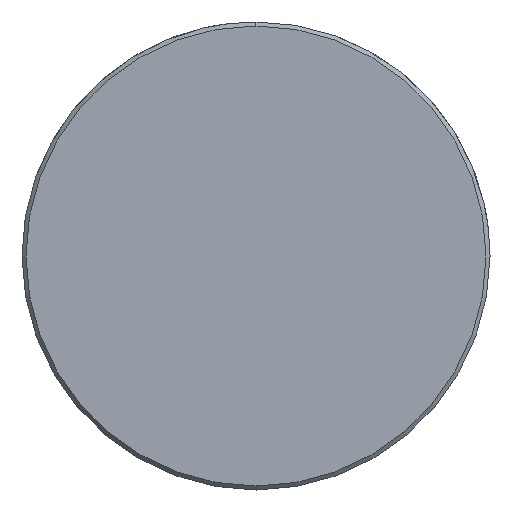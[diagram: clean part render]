
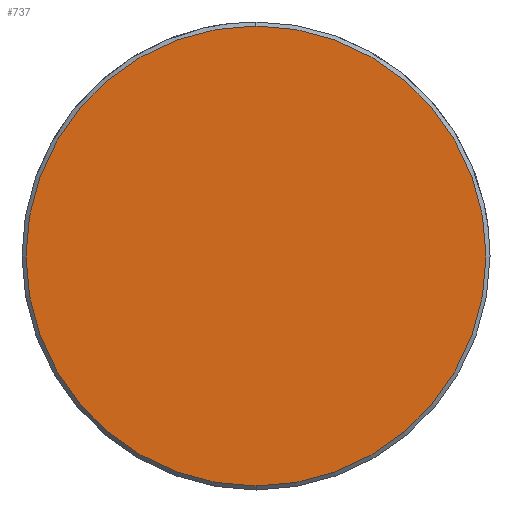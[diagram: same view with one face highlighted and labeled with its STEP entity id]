
A CAD part, left-side view. The second image highlights one B-rep face of the part: STEP entity #737.
In plain terms, the highlighted planar face has unit normal (-1, 0, 0).
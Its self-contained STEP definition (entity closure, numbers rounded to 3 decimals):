
#669=CARTESIAN_POINT('Vertex',(0.,0.,-17.2)) ;
#672=CARTESIAN_POINT('Axis2P3D Location',(0.,0.,0.)) ;
#676=CARTESIAN_POINT('Vertex',(0.,17.2,0.)) ;
#679=CARTESIAN_POINT('Axis2P3D Location',(0.,0.,0.)) ;
#683=CARTESIAN_POINT('Vertex',(0.,0.,17.2)) ;
#705=CARTESIAN_POINT('Axis2P3D Location',(0.,0.,0.)) ;
#709=CARTESIAN_POINT('Vertex',(0.,-17.2,0.)) ;
#712=CARTESIAN_POINT('Axis2P3D Location',(0.,0.,0.)) ;
#726=CARTESIAN_POINT('Axis2P3D Location',(0.,0.,0.)) ;
#673=DIRECTION('Axis2P3D Direction',(1.,0.,-0.)) ;
#680=DIRECTION('Axis2P3D Direction',(1.,0.,-0.)) ;
#706=DIRECTION('Axis2P3D Direction',(1.,0.,-0.)) ;
#713=DIRECTION('Axis2P3D Direction',(1.,0.,-0.)) ;
#727=DIRECTION('Axis2P3D Direction',(1.,0.,-0.)) ;
#728=DIRECTION('Axis2P3D XDirection',(-0.,0.,-1.)) ;
#674=AXIS2_PLACEMENT_3D('Circle Axis2P3D',#672,#673,$) ;
#681=AXIS2_PLACEMENT_3D('Circle Axis2P3D',#679,#680,$) ;
#707=AXIS2_PLACEMENT_3D('Circle Axis2P3D',#705,#706,$) ;
#714=AXIS2_PLACEMENT_3D('Circle Axis2P3D',#712,#713,$) ;
#729=AXIS2_PLACEMENT_3D('Plane Axis2P3D',#726,#727,#728) ;
#732=ORIENTED_EDGE('',*,*,#678,.F.) ;
#733=ORIENTED_EDGE('',*,*,#716,.F.) ;
#734=ORIENTED_EDGE('',*,*,#711,.F.) ;
#735=ORIENTED_EDGE('',*,*,#685,.F.) ;
#737=ADVANCED_FACE('549-32X180',(#736),#730,.F.) ;
#675=CIRCLE('generated circle',#674,17.2) ;
#682=CIRCLE('generated circle',#681,17.2) ;
#708=CIRCLE('generated circle',#707,17.2) ;
#715=CIRCLE('generated circle',#714,17.2) ;
#678=EDGE_CURVE('',#670,#677,#675,.T.) ;
#685=EDGE_CURVE('',#677,#684,#682,.T.) ;
#711=EDGE_CURVE('',#684,#710,#708,.T.) ;
#716=EDGE_CURVE('',#710,#670,#715,.T.) ;
#731=EDGE_LOOP('',(#732,#733,#734,#735)) ;
#736=FACE_OUTER_BOUND('',#731,.T.) ;
#730=PLANE('Plane',#729) ;
#670=VERTEX_POINT('',#669) ;
#677=VERTEX_POINT('',#676) ;
#684=VERTEX_POINT('',#683) ;
#710=VERTEX_POINT('',#709) ;
